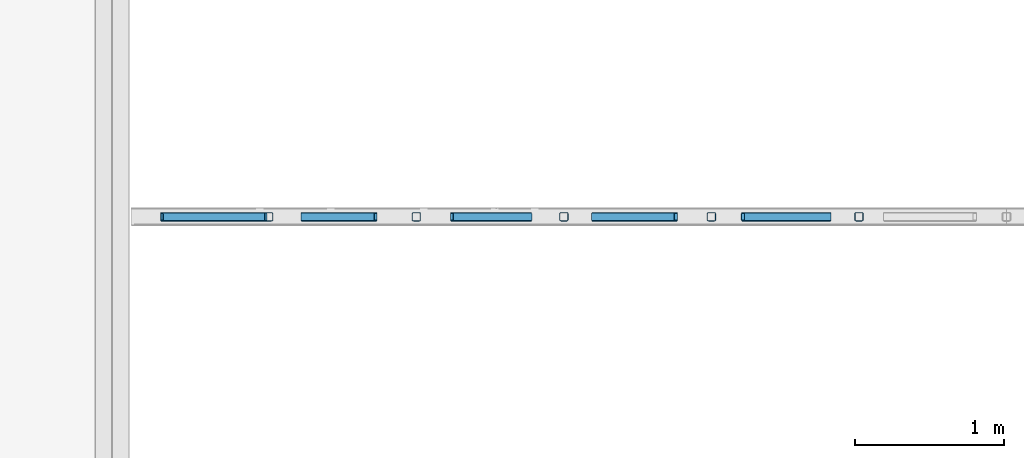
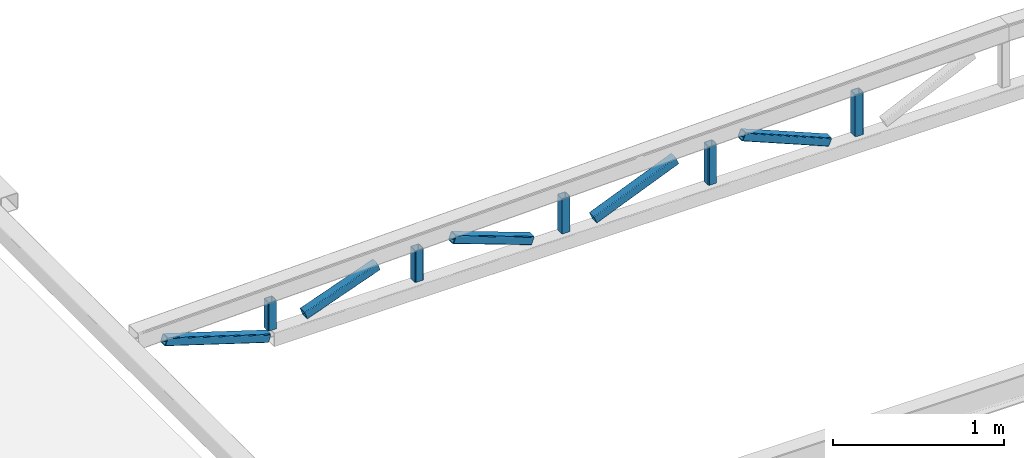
# One storey, part 4 of 12: 10 members, 1 element without a shape of its own.
"""IFC2X3 building model written with IfcOpenShell, lengths in millimetres."""

from ifc_helpers import new_model, entity, si_unit, converted_unit, derived_unit, direction, frame, frame_2d, origin, place, context, subcontext, project, spatial, polyline, circle_curve, parameter, trimmed, segment, composite_curve, outline, extrude, source, transform, mapped, type_object, type_shapes, element, aggregate, save


model = new_model("IFC2X3")

# Units and contexts
model_context = context("Model", 3, precision=0.01, world=origin(), true_north=direction((6.12303176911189e-17, 1.0)))
body_context = subcontext(model_context, "Body", "Model", "MODEL_VIEW")
ifc_project = project(units=[si_unit("LENGTHUNIT", "METRE", prefix="MILLI"), si_unit("AREAUNIT", "SQUARE_METRE"), si_unit("VOLUMEUNIT", "CUBIC_METRE"), converted_unit("PLANEANGLEUNIT", "DEGREE", entity("IfcRatioMeasure", 0.0174532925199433), si_unit("PLANEANGLEUNIT", "RADIAN"), dimensions=[0, 0, 0, 0, 0, 0, 0]), si_unit("MASSUNIT", "GRAM", prefix="KILO"), derived_unit("MASSDENSITYUNIT", [(si_unit("MASSUNIT", "GRAM", prefix="KILO"), 1), (si_unit("LENGTHUNIT", "METRE"), -3)]), si_unit("TIMEUNIT", "SECOND"), si_unit("FREQUENCYUNIT", "HERTZ"), si_unit("THERMODYNAMICTEMPERATUREUNIT", "DEGREE_CELSIUS"), derived_unit("THERMALTRANSMITTANCEUNIT", [(si_unit("MASSUNIT", "GRAM", prefix="KILO"), 1), (si_unit("THERMODYNAMICTEMPERATUREUNIT", "KELVIN"), -1), (si_unit("TIMEUNIT", "SECOND"), -3)]), derived_unit("VOLUMETRICFLOWRATEUNIT", [(si_unit("LENGTHUNIT", "METRE"), 3), (si_unit("TIMEUNIT", "SECOND"), -1)]), si_unit("ELECTRICCURRENTUNIT", "AMPERE"), si_unit("ELECTRICVOLTAGEUNIT", "VOLT"), si_unit("POWERUNIT", "WATT"), si_unit("FORCEUNIT", "NEWTON", prefix="KILO"), si_unit("ILLUMINANCEUNIT", "LUX"), si_unit("LUMINOUSFLUXUNIT", "LUMEN"), si_unit("LUMINOUSINTENSITYUNIT", "CANDELA"), derived_unit("USERDEFINED", [(si_unit("MASSUNIT", "GRAM", prefix="KILO"), -1), (si_unit("LENGTHUNIT", "METRE"), -2), (si_unit("TIMEUNIT", "SECOND"), 3), (si_unit("LUMINOUSFLUXUNIT", "LUMEN"), 1)]), derived_unit("LINEARVELOCITYUNIT", [(si_unit("LENGTHUNIT", "METRE"), 1), (si_unit("TIMEUNIT", "SECOND"), -1)]), si_unit("PRESSUREUNIT", "PASCAL"), derived_unit("USERDEFINED", [(si_unit("LENGTHUNIT", "METRE"), -2), (si_unit("MASSUNIT", "GRAM", prefix="KILO"), 1), (si_unit("TIMEUNIT", "SECOND"), -2)])], contexts=[model_context])

# Site, building, storey
site_placement = place(None, frame((0.0, 0.0, 101000.0)))
site = spatial("IfcSite", under=ifc_project, at=site_placement, Name="Default", CompositionType="ELEMENT")
building_placement = place(site_placement, origin())
building = spatial("IfcBuilding", under=site, at=building_placement, CompositionType="ELEMENT")
storey_placement = place(building_placement, frame((0.0, 0.0, 6025.0)))
storey = spatial("IfcBuildingStorey", under=building, at=storey_placement, Name="03", CompositionType="ELEMENT", Elevation=6024.9999999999)

# Assembly, members
assembly_placement = place(storey_placement, origin())
assembly = element("IfcElementAssembly", 1, at=assembly_placement, inside=storey, Name="Gitterdrager:Standard", ObjectType="Gitterdrager:Standard", AssemblyPlace="NOTDEFINED", PredefinedType="TRUSS")
member_type_1 = type_object("IfcMemberType", Name="60x60x5", PredefinedType="BRACE")
shared_shape_1 = source(origin(), body_context, "Body", "SweptSolid", [
    extrude(outline(composite_curve([segment(trimmed(circle_curve(frame_2d((-20.0, -20.0), x_axis=(1.0, 0.0)), 10.0), [parameter(180.0)], [parameter(270.0)], True, "PARAMETER"), True, "CONTINUOUS"), segment(polyline([(-20.0, -30.0), (20.0, -30.0)]), True, "CONTINUOUS"), segment(trimmed(circle_curve(frame_2d((20.0, -20.0), x_axis=(1.0, 0.0)), 10.0), [parameter(270.0)], [parameter(5.08888749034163e-14)], True, "PARAMETER"), True, "CONTINUOUS"), segment(polyline([(30.0, -20.0), (30.0, 20.0)]), True, "CONTINUOUS"), segment(trimmed(circle_curve(frame_2d((20.0, 20.0), x_axis=(1.0, 0.0)), 10.0), [parameter(360.0)], [parameter(89.9999999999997)], True, "PARAMETER"), True, "CONTINUOUS"), segment(polyline([(20.0, 30.0), (-20.0, 30.0)]), True, "CONTINUOUS"), segment(trimmed(circle_curve(frame_2d((-20.0, 20.0), x_axis=(1.0, 0.0)), 10.0), [parameter(90.0000000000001)], [parameter(180.0)], True, "PARAMETER"), True, "CONTINUOUS"), segment(polyline([(-30.0, 20.0), (-30.0, -20.0)]), True, "CONTINUOUS")], self_intersect=False), holes=[composite_curve([segment(polyline([(20.0, -25.0), (-20.0, -25.0)]), True, "CONTINUOUS"), segment(trimmed(circle_curve(frame_2d((-20.0, -20.0), x_axis=(1.0, 0.0)), 5.0), [parameter(180.0)], [parameter(270.0)], True, "PARAMETER"), False, "CONTINUOUS"), segment(polyline([(-25.0, -20.0), (-25.0, 20.0)]), True, "CONTINUOUS"), segment(trimmed(circle_curve(frame_2d((-20.0, 20.0), x_axis=(1.0, 0.0)), 5.0), [parameter(90.0000000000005)], [parameter(180.0)], True, "PARAMETER"), False, "CONTINUOUS"), segment(polyline([(-20.0, 25.0), (20.0, 25.0)]), True, "CONTINUOUS"), segment(trimmed(circle_curve(frame_2d((20.0, 20.0), x_axis=(1.0, 0.0)), 5.0), [parameter(0.0)], [parameter(90.0000000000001)], True, "PARAMETER"), False, "CONTINUOUS"), segment(polyline([(25.0, 20.0), (25.0, -20.0)]), True, "CONTINUOUS"), segment(trimmed(circle_curve(frame_2d((20.0, -20.0), x_axis=(1.0, 0.0)), 5.0), [parameter(270.0)], [parameter(4.57999874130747e-13)], True, "PARAMETER"), False, "CONTINUOUS")], self_intersect=False)]), frame((-155.792423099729, 0.0, 0.0), z_axis=(1.0, 0.0, 0.0), x_axis=(0.0, -1.0, 0.0)), (0.0, 0.0, 1.0), 300.049419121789),
])
type_shapes(member_type_1, [shared_shape_1])
member_1_placement = place(assembly_placement, frame((16232.9311636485, 26417.9507529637, -122.531331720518), z_axis=(1.0, 0.0, 0.0), x_axis=(0.0, 0.0, 1.0)))
member_1 = element("IfcMember", 2, at=member_1_placement, type_object=member_type_1, Name="Bjelke HUP:60x60x5", ObjectType="60x60x5", context=body_context, shape_type="MappedRepresentation", body=[
    mapped(shared_shape_1, transform((0.0, 0.0, 0.0), scale=1.0)),
])
member_type_2 = type_object("IfcMemberType", Name="60x60x5", PredefinedType="BRACE")
shared_shape_2 = source(origin(), body_context, "Body", "SweptSolid", [
    extrude(outline(composite_curve([segment(trimmed(circle_curve(frame_2d((-20.0, -20.0), x_axis=(1.0, 0.0)), 10.0), [parameter(180.0)], [parameter(270.0)], True, "PARAMETER"), True, "CONTINUOUS"), segment(polyline([(-20.0, -30.0), (20.0, -30.0)]), True, "CONTINUOUS"), segment(trimmed(circle_curve(frame_2d((20.0, -20.0), x_axis=(1.0, 0.0)), 10.0), [parameter(270.0)], [parameter(5.08888749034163e-14)], True, "PARAMETER"), True, "CONTINUOUS"), segment(polyline([(30.0, -20.0), (30.0, 20.0)]), True, "CONTINUOUS"), segment(trimmed(circle_curve(frame_2d((20.0, 20.0), x_axis=(1.0, 0.0)), 10.0), [parameter(360.0)], [parameter(89.9999999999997)], True, "PARAMETER"), True, "CONTINUOUS"), segment(polyline([(20.0, 30.0), (-20.0, 30.0)]), True, "CONTINUOUS"), segment(trimmed(circle_curve(frame_2d((-20.0, 20.0), x_axis=(1.0, 0.0)), 10.0), [parameter(90.0000000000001)], [parameter(180.0)], True, "PARAMETER"), True, "CONTINUOUS"), segment(polyline([(-30.0, 20.0), (-30.0, -20.0)]), True, "CONTINUOUS")], self_intersect=False), holes=[composite_curve([segment(polyline([(20.0, -25.0), (-20.0, -25.0)]), True, "CONTINUOUS"), segment(trimmed(circle_curve(frame_2d((-20.0, -20.0), x_axis=(1.0, 0.0)), 5.0), [parameter(180.0)], [parameter(270.0)], True, "PARAMETER"), False, "CONTINUOUS"), segment(polyline([(-25.0, -20.0), (-25.0, 20.0)]), True, "CONTINUOUS"), segment(trimmed(circle_curve(frame_2d((-20.0, 20.0), x_axis=(1.0, 0.0)), 5.0), [parameter(90.0000000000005)], [parameter(180.0)], True, "PARAMETER"), False, "CONTINUOUS"), segment(polyline([(-20.0, 25.0), (20.0, 25.0)]), True, "CONTINUOUS"), segment(trimmed(circle_curve(frame_2d((20.0, 20.0), x_axis=(1.0, 0.0)), 5.0), [parameter(0.0)], [parameter(90.0000000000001)], True, "PARAMETER"), False, "CONTINUOUS"), segment(polyline([(25.0, 20.0), (25.0, -20.0)]), True, "CONTINUOUS"), segment(trimmed(circle_curve(frame_2d((20.0, -20.0), x_axis=(1.0, 0.0)), 5.0), [parameter(270.0)], [parameter(4.57999874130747e-13)], True, "PARAMETER"), False, "CONTINUOUS")], self_intersect=False)]), frame((-143.393968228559, 0.0, 0.0), z_axis=(1.0, 0.0, 0.0), x_axis=(0.0, -1.0, 0.0)), (0.0, 0.0, 1.0), 275.252509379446),
])
type_shapes(member_type_2, [shared_shape_2])
member_2_placement = place(assembly_placement, frame((15239.6002137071, 26417.9507529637, -134.929786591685), z_axis=(1.0, 0.0, 0.0), x_axis=(0.0, 0.0, 1.0)))
member_2 = element("IfcMember", 3, at=member_2_placement, type_object=member_type_2, Name="Bjelke HUP:60x60x5", ObjectType="60x60x5", context=body_context, shape_type="MappedRepresentation", body=[
    mapped(shared_shape_2, transform((0.0, 0.0, 0.0), scale=1.0)),
])
member_type_3 = type_object("IfcMemberType", Name="60x60x5", PredefinedType="BRACE")
shared_shape_3 = source(origin(), body_context, "Body", "SweptSolid", [
    extrude(outline(composite_curve([segment(trimmed(circle_curve(frame_2d((-20.0, -20.0), x_axis=(1.0, 0.0)), 10.0), [parameter(180.0)], [parameter(270.0)], True, "PARAMETER"), True, "CONTINUOUS"), segment(polyline([(-20.0, -30.0), (20.0, -30.0)]), True, "CONTINUOUS"), segment(trimmed(circle_curve(frame_2d((20.0, -20.0), x_axis=(1.0, 0.0)), 10.0), [parameter(270.0)], [parameter(5.08888749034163e-14)], True, "PARAMETER"), True, "CONTINUOUS"), segment(polyline([(30.0, -20.0), (30.0, 20.0)]), True, "CONTINUOUS"), segment(trimmed(circle_curve(frame_2d((20.0, 20.0), x_axis=(1.0, 0.0)), 10.0), [parameter(360.0)], [parameter(89.9999999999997)], True, "PARAMETER"), True, "CONTINUOUS"), segment(polyline([(20.0, 30.0), (-20.0, 30.0)]), True, "CONTINUOUS"), segment(trimmed(circle_curve(frame_2d((-20.0, 20.0), x_axis=(1.0, 0.0)), 10.0), [parameter(90.0000000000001)], [parameter(180.0)], True, "PARAMETER"), True, "CONTINUOUS"), segment(polyline([(-30.0, 20.0), (-30.0, -20.0)]), True, "CONTINUOUS")], self_intersect=False), holes=[composite_curve([segment(polyline([(20.0, -25.0), (-20.0, -25.0)]), True, "CONTINUOUS"), segment(trimmed(circle_curve(frame_2d((-20.0, -20.0), x_axis=(1.0, 0.0)), 5.0), [parameter(180.0)], [parameter(270.0)], True, "PARAMETER"), False, "CONTINUOUS"), segment(polyline([(-25.0, -20.0), (-25.0, 20.0)]), True, "CONTINUOUS"), segment(trimmed(circle_curve(frame_2d((-20.0, 20.0), x_axis=(1.0, 0.0)), 5.0), [parameter(90.0000000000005)], [parameter(180.0)], True, "PARAMETER"), False, "CONTINUOUS"), segment(polyline([(-20.0, 25.0), (20.0, 25.0)]), True, "CONTINUOUS"), segment(trimmed(circle_curve(frame_2d((20.0, 20.0), x_axis=(1.0, 0.0)), 5.0), [parameter(0.0)], [parameter(90.0000000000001)], True, "PARAMETER"), False, "CONTINUOUS"), segment(polyline([(25.0, 20.0), (25.0, -20.0)]), True, "CONTINUOUS"), segment(trimmed(circle_curve(frame_2d((20.0, -20.0), x_axis=(1.0, 0.0)), 5.0), [parameter(270.0)], [parameter(4.57999874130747e-13)], True, "PARAMETER"), False, "CONTINUOUS")], self_intersect=False)]), frame((-130.995453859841, 0.0, 0.0), z_axis=(1.0, 0.0, 0.0), x_axis=(0.0, -1.0, 0.0)), (0.0, 0.0, 1.0), 250.455480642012),
])
type_shapes(member_type_3, [shared_shape_3])
member_3_placement = place(assembly_placement, frame((14246.2644969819, 26417.9507529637, -147.328300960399), z_axis=(1.0, 0.0, 0.0), x_axis=(0.0, 0.0, 1.0)))
member_3 = element("IfcMember", 4, at=member_3_placement, type_object=member_type_3, Name="Bjelke HUP:60x60x5", ObjectType="60x60x5", context=body_context, shape_type="MappedRepresentation", body=[
    mapped(shared_shape_3, transform((0.0, 0.0, 0.0), scale=1.0)),
])
member_type_4 = type_object("IfcMemberType", Name="60x60x5", PredefinedType="BRACE")
shared_shape_4 = source(origin(), body_context, "Body", "SweptSolid", [
    extrude(outline(composite_curve([segment(trimmed(circle_curve(frame_2d((-20.0, -20.0), x_axis=(1.0, 0.0)), 10.0), [parameter(180.0)], [parameter(270.0)], True, "PARAMETER"), True, "CONTINUOUS"), segment(polyline([(-20.0, -30.0), (20.0, -30.0)]), True, "CONTINUOUS"), segment(trimmed(circle_curve(frame_2d((20.0, -20.0), x_axis=(1.0, 0.0)), 10.0), [parameter(270.0)], [parameter(5.08888749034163e-14)], True, "PARAMETER"), True, "CONTINUOUS"), segment(polyline([(30.0, -20.0), (30.0, 20.0)]), True, "CONTINUOUS"), segment(trimmed(circle_curve(frame_2d((20.0, 20.0), x_axis=(1.0, 0.0)), 10.0), [parameter(360.0)], [parameter(89.9999999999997)], True, "PARAMETER"), True, "CONTINUOUS"), segment(polyline([(20.0, 30.0), (-20.0, 30.0)]), True, "CONTINUOUS"), segment(trimmed(circle_curve(frame_2d((-20.0, 20.0), x_axis=(1.0, 0.0)), 10.0), [parameter(90.0000000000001)], [parameter(180.0)], True, "PARAMETER"), True, "CONTINUOUS"), segment(polyline([(-30.0, 20.0), (-30.0, -20.0)]), True, "CONTINUOUS")], self_intersect=False), holes=[composite_curve([segment(polyline([(20.0, -25.0), (-20.0, -25.0)]), True, "CONTINUOUS"), segment(trimmed(circle_curve(frame_2d((-20.0, -20.0), x_axis=(1.0, 0.0)), 5.0), [parameter(180.0)], [parameter(270.0)], True, "PARAMETER"), False, "CONTINUOUS"), segment(polyline([(-25.0, -20.0), (-25.0, 20.0)]), True, "CONTINUOUS"), segment(trimmed(circle_curve(frame_2d((-20.0, 20.0), x_axis=(1.0, 0.0)), 5.0), [parameter(90.0000000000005)], [parameter(180.0)], True, "PARAMETER"), False, "CONTINUOUS"), segment(polyline([(-20.0, 25.0), (20.0, 25.0)]), True, "CONTINUOUS"), segment(trimmed(circle_curve(frame_2d((20.0, 20.0), x_axis=(1.0, 0.0)), 5.0), [parameter(0.0)], [parameter(90.0000000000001)], True, "PARAMETER"), False, "CONTINUOUS"), segment(polyline([(25.0, 20.0), (25.0, -20.0)]), True, "CONTINUOUS"), segment(trimmed(circle_curve(frame_2d((20.0, -20.0), x_axis=(1.0, 0.0)), 5.0), [parameter(270.0)], [parameter(4.57999874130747e-13)], True, "PARAMETER"), False, "CONTINUOUS")], self_intersect=False)]), frame((-118.596969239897, 0.0, 0.0), z_axis=(1.0, 0.0, 0.0), x_axis=(0.0, -1.0, 0.0)), (0.0, 0.0, 1.0), 225.658511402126),
])
type_shapes(member_type_4, [shared_shape_4])
member_4_placement = place(assembly_placement, frame((13252.9311636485, 26417.9507529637, -159.726785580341), z_axis=(1.0, 0.0, 0.0), x_axis=(0.0, 0.0, 1.0)))
member_4 = element("IfcMember", 5, at=member_4_placement, type_object=member_type_4, Name="Bjelke HUP:60x60x5", ObjectType="60x60x5", context=body_context, shape_type="MappedRepresentation", body=[
    mapped(shared_shape_4, transform((0.0, 0.0, 0.0), scale=1.0)),
])
member_type_5 = type_object("IfcMemberType", Name="60x60x5", PredefinedType="BRACE")
shared_shape_5 = source(origin(), body_context, "Body", "SweptSolid", [
    extrude(outline(composite_curve([segment(trimmed(circle_curve(frame_2d((-20.0, -20.0), x_axis=(1.0, 0.0)), 10.0), [parameter(180.0)], [parameter(270.0)], True, "PARAMETER"), True, "CONTINUOUS"), segment(polyline([(-20.0, -30.0), (20.0, -30.0)]), True, "CONTINUOUS"), segment(trimmed(circle_curve(frame_2d((20.0, -20.0), x_axis=(1.0, 0.0)), 10.0), [parameter(270.0)], [parameter(5.08888749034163e-14)], True, "PARAMETER"), True, "CONTINUOUS"), segment(polyline([(30.0, -20.0), (30.0, 20.0)]), True, "CONTINUOUS"), segment(trimmed(circle_curve(frame_2d((20.0, 20.0), x_axis=(1.0, 0.0)), 10.0), [parameter(360.0)], [parameter(89.9999999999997)], True, "PARAMETER"), True, "CONTINUOUS"), segment(polyline([(20.0, 30.0), (-20.0, 30.0)]), True, "CONTINUOUS"), segment(trimmed(circle_curve(frame_2d((-20.0, 20.0), x_axis=(1.0, 0.0)), 10.0), [parameter(90.0000000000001)], [parameter(180.0)], True, "PARAMETER"), True, "CONTINUOUS"), segment(polyline([(-30.0, 20.0), (-30.0, -20.0)]), True, "CONTINUOUS")], self_intersect=False), holes=[composite_curve([segment(polyline([(20.0, -25.0), (-20.0, -25.0)]), True, "CONTINUOUS"), segment(trimmed(circle_curve(frame_2d((-20.0, -20.0), x_axis=(1.0, 0.0)), 5.0), [parameter(180.0)], [parameter(270.0)], True, "PARAMETER"), False, "CONTINUOUS"), segment(polyline([(-25.0, -20.0), (-25.0, 20.0)]), True, "CONTINUOUS"), segment(trimmed(circle_curve(frame_2d((-20.0, 20.0), x_axis=(1.0, 0.0)), 5.0), [parameter(90.0000000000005)], [parameter(180.0)], True, "PARAMETER"), False, "CONTINUOUS"), segment(polyline([(-20.0, 25.0), (20.0, 25.0)]), True, "CONTINUOUS"), segment(trimmed(circle_curve(frame_2d((20.0, 20.0), x_axis=(1.0, 0.0)), 5.0), [parameter(0.0)], [parameter(90.0000000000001)], True, "PARAMETER"), False, "CONTINUOUS"), segment(polyline([(25.0, 20.0), (25.0, -20.0)]), True, "CONTINUOUS"), segment(trimmed(circle_curve(frame_2d((20.0, -20.0), x_axis=(1.0, 0.0)), 5.0), [parameter(270.0)], [parameter(4.57999874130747e-13)], True, "PARAMETER"), False, "CONTINUOUS")], self_intersect=False)]), frame((-106.198484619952, 0.0, 0.0), z_axis=(1.0, 0.0, 0.0), x_axis=(0.0, -1.0, 0.0)), (0.0, 0.0, 1.0), 200.861542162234),
])
type_shapes(member_type_5, [shared_shape_5])
member_5_placement = place(assembly_placement, frame((12259.5978303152, 26417.9507529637, -172.12527020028), z_axis=(1.0, 0.0, 0.0), x_axis=(0.0, 0.0, 1.0)))
member_5 = element("IfcMember", 6, at=member_5_placement, type_object=member_type_5, Name="Bjelke HUP:60x60x5", ObjectType="60x60x5", context=body_context, shape_type="MappedRepresentation", body=[
    mapped(shared_shape_5, transform((0.0, 0.0, 0.0), scale=1.0)),
])
member_type_6 = type_object("IfcMemberType", Name="60x60x5", PredefinedType="BRACE")
shared_shape_6 = source(origin(), body_context, "Body", "SweptSolid", [
    extrude(outline(composite_curve([segment(trimmed(circle_curve(frame_2d((-20.0, -20.0), x_axis=(1.0, 0.0)), 10.0), [parameter(180.0)], [parameter(270.0)], True, "PARAMETER"), True, "CONTINUOUS"), segment(polyline([(-20.0, -30.0), (20.0, -30.0)]), True, "CONTINUOUS"), segment(trimmed(circle_curve(frame_2d((20.0, -20.0), x_axis=(1.0, 0.0)), 10.0), [parameter(270.0)], [parameter(5.08888749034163e-14)], True, "PARAMETER"), True, "CONTINUOUS"), segment(polyline([(30.0, -20.0), (30.0, 20.0)]), True, "CONTINUOUS"), segment(trimmed(circle_curve(frame_2d((20.0, 20.0), x_axis=(1.0, 0.0)), 10.0), [parameter(360.0)], [parameter(89.9999999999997)], True, "PARAMETER"), True, "CONTINUOUS"), segment(polyline([(20.0, 30.0), (-20.0, 30.0)]), True, "CONTINUOUS"), segment(trimmed(circle_curve(frame_2d((-20.0, 20.0), x_axis=(1.0, 0.0)), 10.0), [parameter(90.0000000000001)], [parameter(180.0)], True, "PARAMETER"), True, "CONTINUOUS"), segment(polyline([(-30.0, 20.0), (-30.0, -20.0)]), True, "CONTINUOUS")], self_intersect=False), holes=[composite_curve([segment(polyline([(20.0, -25.0), (-20.0, -25.0)]), True, "CONTINUOUS"), segment(trimmed(circle_curve(frame_2d((-20.0, -20.0), x_axis=(1.0, 0.0)), 5.0), [parameter(180.0)], [parameter(270.0)], True, "PARAMETER"), False, "CONTINUOUS"), segment(polyline([(-25.0, -20.0), (-25.0, 20.0)]), True, "CONTINUOUS"), segment(trimmed(circle_curve(frame_2d((-20.0, 20.0), x_axis=(1.0, 0.0)), 5.0), [parameter(90.0000000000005)], [parameter(180.0)], True, "PARAMETER"), False, "CONTINUOUS"), segment(polyline([(-20.0, 25.0), (20.0, 25.0)]), True, "CONTINUOUS"), segment(trimmed(circle_curve(frame_2d((20.0, 20.0), x_axis=(1.0, 0.0)), 5.0), [parameter(0.0)], [parameter(90.0000000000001)], True, "PARAMETER"), False, "CONTINUOUS"), segment(polyline([(25.0, 20.0), (25.0, -20.0)]), True, "CONTINUOUS"), segment(trimmed(circle_curve(frame_2d((20.0, -20.0), x_axis=(1.0, 0.0)), 5.0), [parameter(270.0)], [parameter(4.57999874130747e-13)], True, "PARAMETER"), False, "CONTINUOUS")], self_intersect=False)]), frame((-322.27532019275, 0.0, 0.0), z_axis=(1.0, 0.0, 0.0), x_axis=(0.0, -1.0, 0.0)), (0.0, 0.0, 1.0), 600.830243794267),
])
type_shapes(member_type_6, [shared_shape_6])
member_6_placement = place(assembly_placement, frame((14742.9323553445, 26417.9507529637, -134.929786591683), z_axis=(0.383266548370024, 0.0, -0.923637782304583), x_axis=(0.923637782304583, 0.0, 0.383266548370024)))
member_6 = element("IfcMember", 7, at=member_6_placement, type_object=member_type_6, Name="Bjelke HUP:60x60x5", ObjectType="60x60x5", context=body_context, shape_type="MappedRepresentation", body=[
    mapped(shared_shape_6, transform((0.0, 0.0, 0.0), scale=1.0)),
])
member_type_7 = type_object("IfcMemberType", Name="60x60x5", PredefinedType="BRACE")
shared_shape_7 = source(origin(), body_context, "Body", "SweptSolid", [
    extrude(outline(composite_curve([segment(trimmed(circle_curve(frame_2d((-20.0, -20.0), x_axis=(1.0, 0.0)), 10.0), [parameter(180.0)], [parameter(270.0)], True, "PARAMETER"), True, "CONTINUOUS"), segment(polyline([(-20.0, -30.0), (20.0, -30.0)]), True, "CONTINUOUS"), segment(trimmed(circle_curve(frame_2d((20.0, -20.0), x_axis=(1.0, 0.0)), 10.0), [parameter(270.0)], [parameter(5.08888749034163e-14)], True, "PARAMETER"), True, "CONTINUOUS"), segment(polyline([(30.0, -20.0), (30.0, 20.0)]), True, "CONTINUOUS"), segment(trimmed(circle_curve(frame_2d((20.0, 20.0), x_axis=(1.0, 0.0)), 10.0), [parameter(360.0)], [parameter(89.9999999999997)], True, "PARAMETER"), True, "CONTINUOUS"), segment(polyline([(20.0, 30.0), (-20.0, 30.0)]), True, "CONTINUOUS"), segment(trimmed(circle_curve(frame_2d((-20.0, 20.0), x_axis=(1.0, 0.0)), 10.0), [parameter(90.0000000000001)], [parameter(180.0)], True, "PARAMETER"), True, "CONTINUOUS"), segment(polyline([(-30.0, 20.0), (-30.0, -20.0)]), True, "CONTINUOUS")], self_intersect=False), holes=[composite_curve([segment(polyline([(20.0, -25.0), (-20.0, -25.0)]), True, "CONTINUOUS"), segment(trimmed(circle_curve(frame_2d((-20.0, -20.0), x_axis=(1.0, 0.0)), 5.0), [parameter(180.0)], [parameter(270.0)], True, "PARAMETER"), False, "CONTINUOUS"), segment(polyline([(-25.0, -20.0), (-25.0, 20.0)]), True, "CONTINUOUS"), segment(trimmed(circle_curve(frame_2d((-20.0, 20.0), x_axis=(1.0, 0.0)), 5.0), [parameter(90.0000000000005)], [parameter(180.0)], True, "PARAMETER"), False, "CONTINUOUS"), segment(polyline([(-20.0, 25.0), (20.0, 25.0)]), True, "CONTINUOUS"), segment(trimmed(circle_curve(frame_2d((20.0, 20.0), x_axis=(1.0, 0.0)), 5.0), [parameter(0.0)], [parameter(90.0000000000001)], True, "PARAMETER"), False, "CONTINUOUS"), segment(polyline([(25.0, 20.0), (25.0, -20.0)]), True, "CONTINUOUS"), segment(trimmed(circle_curve(frame_2d((20.0, -20.0), x_axis=(1.0, 0.0)), 5.0), [parameter(270.0)], [parameter(4.57999874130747e-13)], True, "PARAMETER"), False, "CONTINUOUS")], self_intersect=False)]), frame((-307.939240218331, 0.0, 0.0), z_axis=(1.0, 0.0, 0.0), x_axis=(0.0, -1.0, 0.0)), (0.0, 0.0, 1.0), 630.213240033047),
])
type_shapes(member_type_7, [shared_shape_7])
member_7_placement = place(assembly_placement, frame((15736.2656886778, 26417.9507529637, -134.929786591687), z_axis=(-0.383268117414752, 0.0, -0.923637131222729), x_axis=(0.923637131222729, 0.0, -0.383268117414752)))
member_7 = element("IfcMember", 8, at=member_7_placement, type_object=member_type_7, Name="Bjelke HUP:60x60x5", ObjectType="60x60x5", context=body_context, shape_type="MappedRepresentation", body=[
    mapped(shared_shape_7, transform((0.0, 0.0, 0.0), scale=1.0)),
])
member_type_8 = type_object("IfcMemberType", Name="60x60x5", PredefinedType="BRACE")
shared_shape_8 = source(origin(), body_context, "Body", "SweptSolid", [
    extrude(outline(composite_curve([segment(trimmed(circle_curve(frame_2d((-20.0, -20.0), x_axis=(1.0, 0.0)), 10.0), [parameter(180.0)], [parameter(270.0)], True, "PARAMETER"), True, "CONTINUOUS"), segment(polyline([(-20.0, -30.0), (20.0, -30.0)]), True, "CONTINUOUS"), segment(trimmed(circle_curve(frame_2d((20.0, -20.0), x_axis=(1.0, 0.0)), 10.0), [parameter(270.0)], [parameter(5.08888749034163e-14)], True, "PARAMETER"), True, "CONTINUOUS"), segment(polyline([(30.0, -20.0), (30.0, 20.0)]), True, "CONTINUOUS"), segment(trimmed(circle_curve(frame_2d((20.0, 20.0), x_axis=(1.0, 0.0)), 10.0), [parameter(360.0)], [parameter(89.9999999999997)], True, "PARAMETER"), True, "CONTINUOUS"), segment(polyline([(20.0, 30.0), (-20.0, 30.0)]), True, "CONTINUOUS"), segment(trimmed(circle_curve(frame_2d((-20.0, 20.0), x_axis=(1.0, 0.0)), 10.0), [parameter(90.0000000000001)], [parameter(180.0)], True, "PARAMETER"), True, "CONTINUOUS"), segment(polyline([(-30.0, 20.0), (-30.0, -20.0)]), True, "CONTINUOUS")], self_intersect=False), holes=[composite_curve([segment(polyline([(20.0, -25.0), (-20.0, -25.0)]), True, "CONTINUOUS"), segment(trimmed(circle_curve(frame_2d((-20.0, -20.0), x_axis=(1.0, 0.0)), 5.0), [parameter(180.0)], [parameter(270.0)], True, "PARAMETER"), False, "CONTINUOUS"), segment(polyline([(-25.0, -20.0), (-25.0, 20.0)]), True, "CONTINUOUS"), segment(trimmed(circle_curve(frame_2d((-20.0, 20.0), x_axis=(1.0, 0.0)), 5.0), [parameter(90.0000000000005)], [parameter(180.0)], True, "PARAMETER"), False, "CONTINUOUS"), segment(polyline([(-20.0, 25.0), (20.0, 25.0)]), True, "CONTINUOUS"), segment(trimmed(circle_curve(frame_2d((20.0, 20.0), x_axis=(1.0, 0.0)), 5.0), [parameter(0.0)], [parameter(90.0000000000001)], True, "PARAMETER"), False, "CONTINUOUS"), segment(polyline([(25.0, 20.0), (25.0, -20.0)]), True, "CONTINUOUS"), segment(trimmed(circle_curve(frame_2d((20.0, -20.0), x_axis=(1.0, 0.0)), 5.0), [parameter(270.0)], [parameter(4.57999874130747e-13)], True, "PARAMETER"), False, "CONTINUOUS")], self_intersect=False)]), frame((-273.871385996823, 0.0, 0.0), z_axis=(1.0, 0.0, 0.0), x_axis=(0.0, -1.0, 0.0)), (0.0, 0.0, 1.0), 561.89082896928),
])
type_shapes(member_type_8, [shared_shape_8])
member_8_placement = place(assembly_placement, frame((13749.5978303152, 26417.9507529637, -159.726785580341), z_axis=(-0.342896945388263, 0.0, -0.939373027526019), x_axis=(0.939373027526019, 0.0, -0.342896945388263)))
member_8 = element("IfcMember", 9, at=member_8_placement, type_object=member_type_8, Name="Bjelke HUP:60x60x5", ObjectType="60x60x5", context=body_context, shape_type="MappedRepresentation", body=[
    mapped(shared_shape_8, transform((0.0, 0.0, 0.0), scale=1.0)),
])
member_type_9 = type_object("IfcMemberType", Name="60x60x5", PredefinedType="BRACE")
shared_shape_9 = source(origin(), body_context, "Body", "SweptSolid", [
    extrude(outline(composite_curve([segment(trimmed(circle_curve(frame_2d((-20.0, -20.0), x_axis=(1.0, 0.0)), 10.0), [parameter(180.0)], [parameter(270.0)], True, "PARAMETER"), True, "CONTINUOUS"), segment(polyline([(-20.0, -30.0), (20.0, -30.0)]), True, "CONTINUOUS"), segment(trimmed(circle_curve(frame_2d((20.0, -20.0), x_axis=(1.0, 0.0)), 10.0), [parameter(270.0)], [parameter(5.08888749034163e-14)], True, "PARAMETER"), True, "CONTINUOUS"), segment(polyline([(30.0, -20.0), (30.0, 20.0)]), True, "CONTINUOUS"), segment(trimmed(circle_curve(frame_2d((20.0, 20.0), x_axis=(1.0, 0.0)), 10.0), [parameter(360.0)], [parameter(89.9999999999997)], True, "PARAMETER"), True, "CONTINUOUS"), segment(polyline([(20.0, 30.0), (-20.0, 30.0)]), True, "CONTINUOUS"), segment(trimmed(circle_curve(frame_2d((-20.0, 20.0), x_axis=(1.0, 0.0)), 10.0), [parameter(90.0000000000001)], [parameter(180.0)], True, "PARAMETER"), True, "CONTINUOUS"), segment(polyline([(-30.0, 20.0), (-30.0, -20.0)]), True, "CONTINUOUS")], self_intersect=False), holes=[composite_curve([segment(polyline([(20.0, -25.0), (-20.0, -25.0)]), True, "CONTINUOUS"), segment(trimmed(circle_curve(frame_2d((-20.0, -20.0), x_axis=(1.0, 0.0)), 5.0), [parameter(180.0)], [parameter(270.0)], True, "PARAMETER"), False, "CONTINUOUS"), segment(polyline([(-25.0, -20.0), (-25.0, 20.0)]), True, "CONTINUOUS"), segment(trimmed(circle_curve(frame_2d((-20.0, 20.0), x_axis=(1.0, 0.0)), 5.0), [parameter(90.0000000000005)], [parameter(180.0)], True, "PARAMETER"), False, "CONTINUOUS"), segment(polyline([(-20.0, 25.0), (20.0, 25.0)]), True, "CONTINUOUS"), segment(trimmed(circle_curve(frame_2d((20.0, 20.0), x_axis=(1.0, 0.0)), 5.0), [parameter(0.0)], [parameter(90.0000000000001)], True, "PARAMETER"), False, "CONTINUOUS"), segment(polyline([(25.0, 20.0), (25.0, -20.0)]), True, "CONTINUOUS"), segment(trimmed(circle_curve(frame_2d((20.0, -20.0), x_axis=(1.0, 0.0)), 5.0), [parameter(270.0)], [parameter(4.57999874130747e-13)], True, "PARAMETER"), False, "CONTINUOUS")], self_intersect=False)]), frame((-288.01944297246, 0.0, 0.0), z_axis=(1.0, 0.0, 0.0), x_axis=(0.0, -1.0, 0.0)), (0.0, 0.0, 1.0), 524.731615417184),
])
type_shapes(member_type_9, [shared_shape_9])
member_9_placement = place(assembly_placement, frame((12756.2644969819, 26417.9507529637, -159.726785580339), z_axis=(0.342896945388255, 0.0, -0.939373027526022), x_axis=(0.939373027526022, 0.0, 0.342896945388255)))
member_9 = element("IfcMember", 10, at=member_9_placement, type_object=member_type_9, Name="Bjelke HUP:60x60x5", ObjectType="60x60x5", context=body_context, shape_type="MappedRepresentation", body=[
    mapped(shared_shape_9, transform((0.0, 0.0, 0.0), scale=1.0)),
])
member_type_10 = type_object("IfcMemberType", Name="60x60x5", PredefinedType="BRACE")
shared_shape_10 = source(origin(), body_context, "Body", "SweptSolid", [
    extrude(outline(composite_curve([segment(trimmed(circle_curve(frame_2d((-20.0, -20.0), x_axis=(1.0, 0.0)), 10.0), [parameter(180.0)], [parameter(270.0)], True, "PARAMETER"), True, "CONTINUOUS"), segment(polyline([(-20.0, -30.0), (20.0, -30.0)]), True, "CONTINUOUS"), segment(trimmed(circle_curve(frame_2d((20.0, -20.0), x_axis=(1.0, 0.0)), 10.0), [parameter(270.0)], [parameter(5.08888749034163e-14)], True, "PARAMETER"), True, "CONTINUOUS"), segment(polyline([(30.0, -20.0), (30.0, 20.0)]), True, "CONTINUOUS"), segment(trimmed(circle_curve(frame_2d((20.0, 20.0), x_axis=(1.0, 0.0)), 10.0), [parameter(360.0)], [parameter(89.9999999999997)], True, "PARAMETER"), True, "CONTINUOUS"), segment(polyline([(20.0, 30.0), (-20.0, 30.0)]), True, "CONTINUOUS"), segment(trimmed(circle_curve(frame_2d((-20.0, 20.0), x_axis=(1.0, 0.0)), 10.0), [parameter(90.0000000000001)], [parameter(180.0)], True, "PARAMETER"), True, "CONTINUOUS"), segment(polyline([(-30.0, 20.0), (-30.0, -20.0)]), True, "CONTINUOUS")], self_intersect=False), holes=[composite_curve([segment(polyline([(20.0, -25.0), (-20.0, -25.0)]), True, "CONTINUOUS"), segment(trimmed(circle_curve(frame_2d((-20.0, -20.0), x_axis=(1.0, 0.0)), 5.0), [parameter(180.0)], [parameter(270.0)], True, "PARAMETER"), False, "CONTINUOUS"), segment(polyline([(-25.0, -20.0), (-25.0, 20.0)]), True, "CONTINUOUS"), segment(trimmed(circle_curve(frame_2d((-20.0, 20.0), x_axis=(1.0, 0.0)), 5.0), [parameter(90.0000000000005)], [parameter(180.0)], True, "PARAMETER"), False, "CONTINUOUS"), segment(polyline([(-20.0, 25.0), (20.0, 25.0)]), True, "CONTINUOUS"), segment(trimmed(circle_curve(frame_2d((20.0, 20.0), x_axis=(1.0, 0.0)), 5.0), [parameter(0.0)], [parameter(90.0000000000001)], True, "PARAMETER"), False, "CONTINUOUS"), segment(polyline([(25.0, 20.0), (25.0, -20.0)]), True, "CONTINUOUS"), segment(trimmed(circle_curve(frame_2d((20.0, -20.0), x_axis=(1.0, 0.0)), 5.0), [parameter(270.0)], [parameter(4.57999874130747e-13)], True, "PARAMETER"), False, "CONTINUOUS")], self_intersect=False)]), frame((-233.100976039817, 0.0, 0.0), z_axis=(1.0, 0.0, 0.0), x_axis=(0.0, -1.0, 0.0)), (0.0, 0.0, 1.0), 731.687840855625),
])
type_shapes(member_type_10, [shared_shape_10])
member_10_placement = place(assembly_placement, frame((11762.9311636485, 26417.9507529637, -184.523754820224), z_axis=(-0.300533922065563, 0.0, -0.95377112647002), x_axis=(0.95377112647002, 0.0, -0.300533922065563)))
member_10 = element("IfcMember", 11, at=member_10_placement, type_object=member_type_10, Name="Bjelke HUP:60x60x5", ObjectType="60x60x5", context=body_context, shape_type="MappedRepresentation", body=[
    mapped(shared_shape_10, transform((0.0, 0.0, 0.0), scale=1.0)),
])
aggregate(assembly, [member_1, member_2, member_3, member_4, member_5, member_6, member_7, member_8, member_9, member_10])

save(model, "model.ifc")
